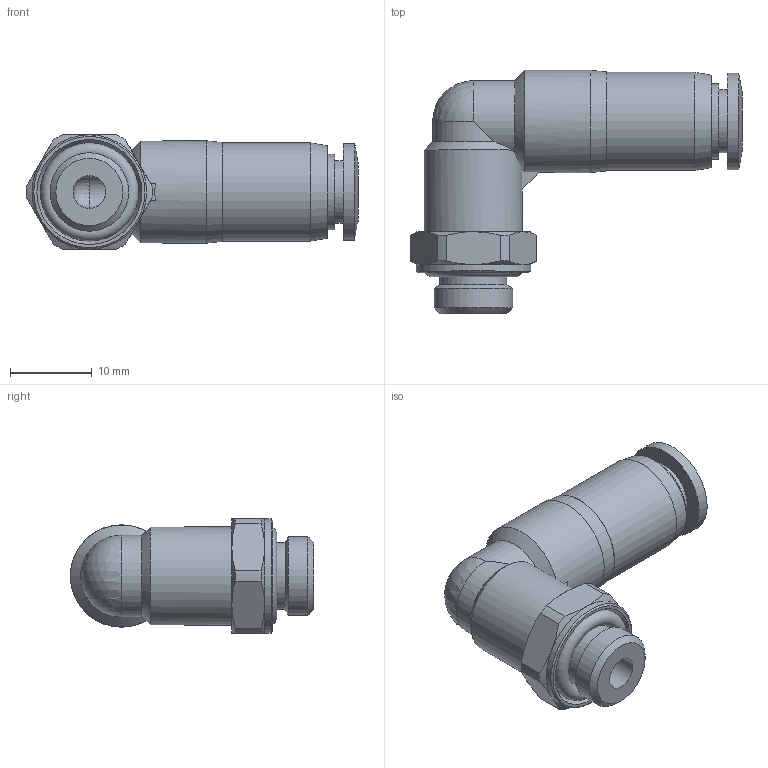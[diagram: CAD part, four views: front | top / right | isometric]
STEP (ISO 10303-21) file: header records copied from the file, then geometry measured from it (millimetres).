
FILE_DESCRIPTION((''),'2;1');
FILE_NAME('D:\INVENTOR\[New Inventor]\CDC Products 3D Ass''y\Stop Fittings\G\SPL-G\SPL06-G01.stp','2009-02-13T13:33:25',('Microsoft'),(''),'Autodesk Inventor 2008','Autodesk Inventor 2008','');
FILE_SCHEMA(('AUTOMOTIVE_DESIGN { 1 0 10303 214 1 1 1 1 }'));
Length unit declared in the file: millimetre
Products named in the file (1): SPL06-G01
Bounding box: 40.6 x 29.75 x 14 mm (x, y, z)
Volume: 4981.2 mm3; surface area: 3541.9 mm2
Topology: 2 solids, 2 shells, 67 faces, 152 edges, 90 vertices
Faces by surface type: cylinder 21, cone 21, plane 20, sphere 2, torus 2, bspline 1
Full cylindrical faces by diameter (mm): 4 x2, 6.3 x1, 7.7 x1, 8.2 x2, 9.2 x1, 9.6 x1, 11.8 x1, 12 x2, 12.5 x1, 14 x1
Entity records: 1748 total; most frequent: CARTESIAN_POINT 413, DIRECTION 288, ORIENTED_EDGE 236, AXIS2_PLACEMENT_3D 135, EDGE_CURVE 118, EDGE_LOOP 101, VERTEX_POINT 83, FACE_OUTER_BOUND 67
